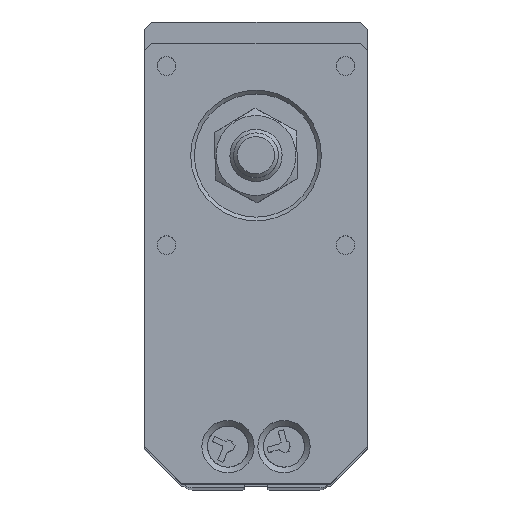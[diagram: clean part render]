
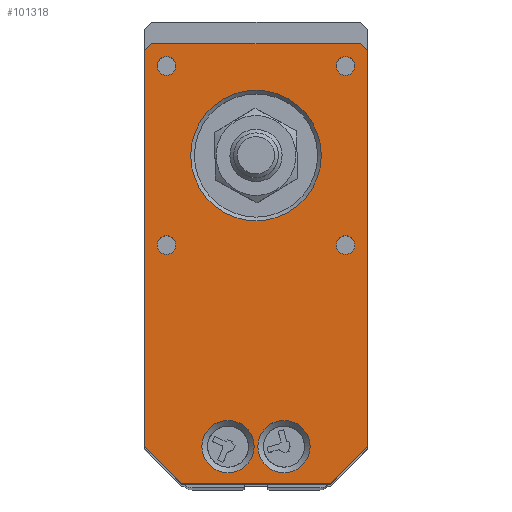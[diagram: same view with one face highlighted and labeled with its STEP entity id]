
A CAD part, top view. The second image highlights one B-rep face of the part: STEP entity #101318.
In plain terms, the highlighted planar face has unit normal (0, 0, 1).
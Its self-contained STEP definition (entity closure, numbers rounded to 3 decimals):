
#1563 = VECTOR ( 'NONE', #705541, 1000. ) ;
#6640 = VECTOR ( 'NONE', #305498, 1000. ) ;
#8299 = EDGE_CURVE ( 'NONE', #443176, #638649, #354691, .T. ) ;
#8344 = EDGE_CURVE ( 'NONE', #105131, #105131, #405990, .T. ) ;
#13904 = CARTESIAN_POINT ( 'NONE',  ( -34.373, -4.902, -28.225 ) ) ;
#17280 = AXIS2_PLACEMENT_3D ( 'NONE', #160138, #629439, #282214 ) ;
#23483 = ORIENTED_EDGE ( 'NONE', *, *, #8299, .T. ) ;
#26812 = VERTEX_POINT ( 'NONE', #251975 ) ;
#37838 = LINE ( 'NONE', #213241, #626855 ) ;
#38379 = ORIENTED_EDGE ( 'NONE', *, *, #560345, .F. ) ;
#53233 = VECTOR ( 'NONE', #426860, 1000. ) ;
#63520 = ORIENTED_EDGE ( 'NONE', *, *, #132815, .T. ) ;
#68014 = VERTEX_POINT ( 'NONE', #257068 ) ;
#72658 = CARTESIAN_POINT ( 'NONE',  ( -76.123, 36.348, -28.225 ) ) ;
#75631 = EDGE_CURVE ( 'NONE', #638649, #501746, #684621, .T. ) ;
#75889 = CARTESIAN_POINT ( 'NONE',  ( -34.623, -5.152, -28.225 ) ) ;
#81770 = CARTESIAN_POINT ( 'NONE',  ( -29.373, 0.098, -28.225 ) ) ;
#87072 = EDGE_LOOP ( 'NONE', ( #158020 ) ) ;
#95088 = DIRECTION ( 'NONE',  ( 1., 0., 0. ) ) ;
#101318 = ADVANCED_FACE ( 'NONE', ( #511114, #221081, #446264, #572229, #381532, #324324, #274664, #557163 ), #682692, .T. ) ;
#105131 = VERTEX_POINT ( 'NONE', #154942 ) ;
#107098 = LINE ( 'NONE', #648570, #1563 ) ;
#109464 = ORIENTED_EDGE ( 'NONE', *, *, #75631, .T. ) ;
#113612 = DIRECTION ( 'NONE',  ( 0.707, -0.707, 0. ) ) ;
#130913 = VERTEX_POINT ( 'NONE', #466718 ) ;
#132815 = EDGE_CURVE ( 'NONE', #712579, #68014, #534513, .T. ) ;
#141494 = DIRECTION ( 'NONE',  ( 0., 0., 1. ) ) ;
#146905 = CARTESIAN_POINT ( 'NONE',  ( -37.123, 0.098, -28.225 ) ) ;
#154942 = CARTESIAN_POINT ( 'NONE',  ( -35.623, 39.098, -28.225 ) ) ;
#156711 = CIRCLE ( 'NONE', #193172, 1.25 ) ;
#158020 = ORIENTED_EDGE ( 'NONE', *, *, #8344, .T. ) ;
#160138 = CARTESIAN_POINT ( 'NONE',  ( -44.373, 4.598, -28.225 ) ) ;
#166880 = CARTESIAN_POINT ( 'NONE',  ( -59.373, 0.098, -28.225 ) ) ;
#175796 = DIRECTION ( 'NONE',  ( 1., 0., 0. ) ) ;
#176065 = VERTEX_POINT ( 'NONE', #166880 ) ;
#178335 = ORIENTED_EDGE ( 'NONE', *, *, #485104, .F. ) ;
#191238 = DIRECTION ( 'NONE',  ( 1., 0., 0. ) ) ;
#193172 = AXIS2_PLACEMENT_3D ( 'NONE', #526729, #515475, #175796 ) ;
#194448 = ORIENTED_EDGE ( 'NONE', *, *, #263253, .F. ) ;
#205782 = DIRECTION ( 'NONE',  ( 0., 0., 1. ) ) ;
#213241 = CARTESIAN_POINT ( 'NONE',  ( -59.373, -4.902, -28.225 ) ) ;
#221081 = FACE_BOUND ( 'NONE', #642988, .T. ) ;
#223340 = CARTESIAN_POINT ( 'NONE',  ( -44.373, 39.098, -28.225 ) ) ;
#231498 = CIRCLE ( 'NONE', #328956, 1.25 ) ;
#234401 = EDGE_LOOP ( 'NONE', ( #325516 ) ) ;
#237800 = LINE ( 'NONE', #356078, #458244 ) ;
#248998 = ORIENTED_EDGE ( 'NONE', *, *, #574042, .T. ) ;
#251432 = DIRECTION ( 'NONE',  ( -1., 0., 0. ) ) ;
#251975 = CARTESIAN_POINT ( 'NONE',  ( -31.123, 51.098, -28.225 ) ) ;
#257068 = CARTESIAN_POINT ( 'NONE',  ( -59.373, 53.098, -28.225 ) ) ;
#262559 = EDGE_CURVE ( 'NONE', #550654, #712579, #705365, .T. ) ;
#263253 = EDGE_CURVE ( 'NONE', #683582, #683582, #386735, .T. ) ;
#274664 = FACE_BOUND ( 'NONE', #658801, .T. ) ;
#281622 = AXIS2_PLACEMENT_3D ( 'NONE', #644785, #461753, #629803 ) ;
#282214 = DIRECTION ( 'NONE',  ( 1., 0., 0. ) ) ;
#305498 = DIRECTION ( 'NONE',  ( -0.707, -0.707, 0. ) ) ;
#311311 = DIRECTION ( 'NONE',  ( 0., 0., 1. ) ) ;
#324324 = FACE_BOUND ( 'NONE', #234401, .T. ) ;
#325516 = ORIENTED_EDGE ( 'NONE', *, *, #477029, .F. ) ;
#326087 = VERTEX_POINT ( 'NONE', #146905 ) ;
#328956 = AXIS2_PLACEMENT_3D ( 'NONE', #481159, #141494, #191238 ) ;
#337569 = CARTESIAN_POINT ( 'NONE',  ( -29.373, 54.098, -28.225 ) ) ;
#354691 = LINE ( 'NONE', #75889, #53233 ) ;
#356078 = CARTESIAN_POINT ( 'NONE',  ( -59.373, 54.098, -28.225 ) ) ;
#371151 = ORIENTED_EDGE ( 'NONE', *, *, #262559, .T. ) ;
#381532 = FACE_BOUND ( 'NONE', #612837, .T. ) ;
#386735 = CIRCLE ( 'NONE', #715422, 1.25 ) ;
#393715 = CARTESIAN_POINT ( 'NONE',  ( -31.123, 27.098, -28.225 ) ) ;
#395025 = DIRECTION ( 'NONE',  ( 1., 0., 0. ) ) ;
#404527 = CARTESIAN_POINT ( 'NONE',  ( -58.373, 54.098, -28.225 ) ) ;
#405990 = CIRCLE ( 'NONE', #516110, 8.75 ) ;
#408413 = AXIS2_PLACEMENT_3D ( 'NONE', #728244, #205782, #95088 ) ;
#409704 = VECTOR ( 'NONE', #570404, 1000. ) ;
#419655 = EDGE_LOOP ( 'NONE', ( #439592 ) ) ;
#426860 = DIRECTION ( 'NONE',  ( 0.707, 0.707, 0. ) ) ;
#427475 = AXIS2_PLACEMENT_3D ( 'NONE', #429465, #311311, #662222 ) ;
#429187 = VERTEX_POINT ( 'NONE', #718997 ) ;
#429465 = CARTESIAN_POINT ( 'NONE',  ( -32.373, 51.098, -28.225 ) ) ;
#439592 = ORIENTED_EDGE ( 'NONE', *, *, #672941, .F. ) ;
#443176 = VERTEX_POINT ( 'NONE', #13904 ) ;
#446264 = FACE_OUTER_BOUND ( 'NONE', #583124, .T. ) ;
#446591 = VECTOR ( 'NONE', #251432, 1000. ) ;
#458244 = VECTOR ( 'NONE', #649820, 1000. ) ;
#461753 = DIRECTION ( 'NONE',  ( 0., 0., 1. ) ) ;
#462679 = DIRECTION ( 'NONE',  ( 1., 0., 0. ) ) ;
#466718 = CARTESIAN_POINT ( 'NONE',  ( -55.123, 27.098, -28.225 ) ) ;
#468273 = CARTESIAN_POINT ( 'NONE',  ( -54.373, -4.902, -28.225 ) ) ;
#468299 = CARTESIAN_POINT ( 'NONE',  ( -54.123, -5.152, -28.225 ) ) ;
#471816 = ORIENTED_EDGE ( 'NONE', *, *, #640564, .T. ) ;
#474492 = CARTESIAN_POINT ( 'NONE',  ( -55.123, 51.098, -28.225 ) ) ;
#477029 = EDGE_CURVE ( 'NONE', #429187, #429187, #483153, .T. ) ;
#481159 = CARTESIAN_POINT ( 'NONE',  ( -56.373, 27.098, -28.225 ) ) ;
#483153 = CIRCLE ( 'NONE', #408413, 3.5 ) ;
#485104 = EDGE_CURVE ( 'NONE', #326087, #326087, #501029, .T. ) ;
#501029 = CIRCLE ( 'NONE', #281622, 3.5 ) ;
#501746 = VERTEX_POINT ( 'NONE', #686057 ) ;
#511114 = FACE_BOUND ( 'NONE', #419655, .T. ) ;
#512406 = DIRECTION ( 'NONE',  ( 0., 0., 1. ) ) ;
#513142 = ORIENTED_EDGE ( 'NONE', *, *, #639131, .F. ) ;
#515475 = DIRECTION ( 'NONE',  ( 0., 0., 1. ) ) ;
#516110 = AXIS2_PLACEMENT_3D ( 'NONE', #223340, #613839, #395025 ) ;
#526729 = CARTESIAN_POINT ( 'NONE',  ( -56.373, 51.098, -28.225 ) ) ;
#529826 = CARTESIAN_POINT ( 'NONE',  ( -30.373, 54.098, -28.225 ) ) ;
#534513 = LINE ( 'NONE', #72658, #6640 ) ;
#550654 = VERTEX_POINT ( 'NONE', #529826 ) ;
#557163 = FACE_BOUND ( 'NONE', #87072, .T. ) ;
#560345 = EDGE_CURVE ( 'NONE', #130913, #130913, #231498, .T. ) ;
#570404 = DIRECTION ( 'NONE',  ( 0., 1., 0. ) ) ;
#572229 = FACE_BOUND ( 'NONE', #734636, .T. ) ;
#574042 = EDGE_CURVE ( 'NONE', #501746, #550654, #107098, .T. ) ;
#575401 = LINE ( 'NONE', #468299, #588328 ) ;
#583124 = EDGE_LOOP ( 'NONE', ( #109464, #248998, #371151, #63520, #622048, #471816, #592298, #23483 ) ) ;
#588328 = VECTOR ( 'NONE', #113612, 1000. ) ;
#592298 = ORIENTED_EDGE ( 'NONE', *, *, #686497, .T. ) ;
#596570 = VERTEX_POINT ( 'NONE', #474492 ) ;
#610664 = CIRCLE ( 'NONE', #427475, 1.25 ) ;
#612837 = EDGE_LOOP ( 'NONE', ( #38379 ) ) ;
#613839 = DIRECTION ( 'NONE',  ( 0., 0., -1. ) ) ;
#622048 = ORIENTED_EDGE ( 'NONE', *, *, #635239, .T. ) ;
#626855 = VECTOR ( 'NONE', #678586, 1000. ) ;
#629439 = DIRECTION ( 'NONE',  ( 0., 0., 1. ) ) ;
#629803 = DIRECTION ( 'NONE',  ( 1., 0., 0. ) ) ;
#635239 = EDGE_CURVE ( 'NONE', #68014, #176065, #237800, .T. ) ;
#637145 = VERTEX_POINT ( 'NONE', #468273 ) ;
#638649 = VERTEX_POINT ( 'NONE', #81770 ) ;
#639131 = EDGE_CURVE ( 'NONE', #26812, #26812, #610664, .T. ) ;
#640564 = EDGE_CURVE ( 'NONE', #176065, #637145, #575401, .T. ) ;
#641909 = CARTESIAN_POINT ( 'NONE',  ( -32.373, 27.098, -28.225 ) ) ;
#642988 = EDGE_LOOP ( 'NONE', ( #513142 ) ) ;
#644691 = CARTESIAN_POINT ( 'NONE',  ( -59.373, 54.098, -28.225 ) ) ;
#644785 = CARTESIAN_POINT ( 'NONE',  ( -40.623, 0.098, -28.225 ) ) ;
#648570 = CARTESIAN_POINT ( 'NONE',  ( -12.623, 36.348, -28.225 ) ) ;
#649820 = DIRECTION ( 'NONE',  ( 0., -1., 0. ) ) ;
#658801 = EDGE_LOOP ( 'NONE', ( #178335 ) ) ;
#662222 = DIRECTION ( 'NONE',  ( 1., 0., 0. ) ) ;
#672941 = EDGE_CURVE ( 'NONE', #596570, #596570, #156711, .T. ) ;
#678586 = DIRECTION ( 'NONE',  ( 1., 0., 0. ) ) ;
#682692 = PLANE ( 'NONE',  #17280 ) ;
#683582 = VERTEX_POINT ( 'NONE', #393715 ) ;
#684621 = LINE ( 'NONE', #337569, #409704 ) ;
#686057 = CARTESIAN_POINT ( 'NONE',  ( -29.373, 53.098, -28.225 ) ) ;
#686497 = EDGE_CURVE ( 'NONE', #637145, #443176, #37838, .T. ) ;
#705365 = LINE ( 'NONE', #644691, #446591 ) ;
#705541 = DIRECTION ( 'NONE',  ( -0.707, 0.707, 0. ) ) ;
#712579 = VERTEX_POINT ( 'NONE', #404527 ) ;
#715422 = AXIS2_PLACEMENT_3D ( 'NONE', #641909, #512406, #462679 ) ;
#718997 = CARTESIAN_POINT ( 'NONE',  ( -44.623, 0.098, -28.225 ) ) ;
#728244 = CARTESIAN_POINT ( 'NONE',  ( -48.123, 0.098, -28.225 ) ) ;
#734636 = EDGE_LOOP ( 'NONE', ( #194448 ) ) ;
